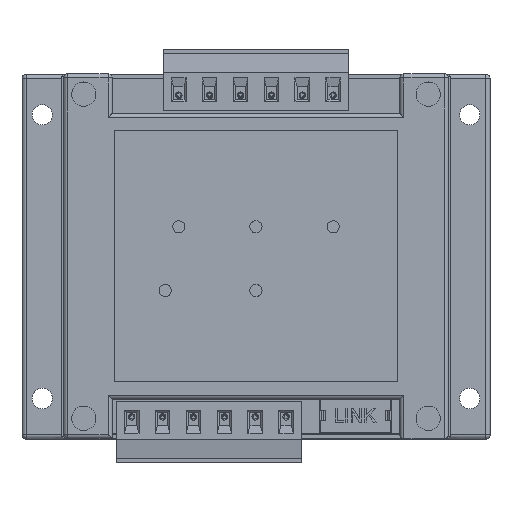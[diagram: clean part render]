
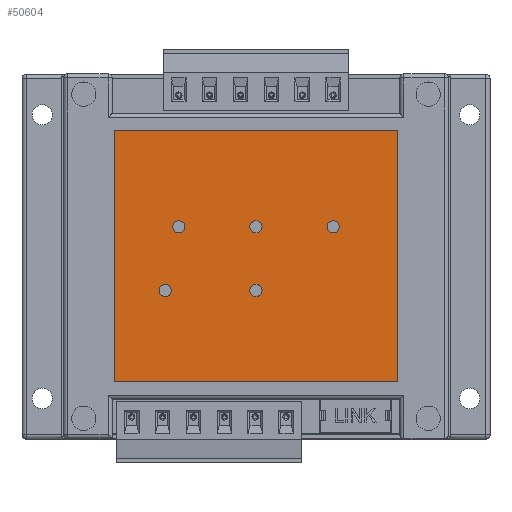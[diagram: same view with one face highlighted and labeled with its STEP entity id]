
A CAD part, top view. The second image highlights one B-rep face of the part: STEP entity #50604.
In plain terms, the highlighted planar face has unit normal (0, 0, 1).
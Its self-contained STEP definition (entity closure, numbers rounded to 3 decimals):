
#87 = DIRECTION ( 'NONE',  ( 0., -1., 0. ) ) ;
#1165 = AXIS2_PLACEMENT_3D ( 'NONE', #39318, #75757, #57805 ) ;
#2840 = CIRCLE ( 'NONE', #64678, 1.5 ) ;
#3066 = VERTEX_POINT ( 'NONE', #18585 ) ;
#3477 = DIRECTION ( 'NONE',  ( 0., -1., 0. ) ) ;
#3683 = CARTESIAN_POINT ( 'NONE',  ( -36.661, 21.539, 182.357 ) ) ;
#4295 = EDGE_LOOP ( 'NONE', ( #75303, #76708 ) ) ;
#4382 = CARTESIAN_POINT ( 'NONE',  ( -55.711, 20.039, 182.357 ) ) ;
#5021 = DIRECTION ( 'NONE',  ( 0., -1., 0. ) ) ;
#5432 = LINE ( 'NONE', #8894, #30358 ) ;
#5720 = EDGE_CURVE ( 'NONE', #12729, #52686, #51034, .T. ) ;
#5769 = CARTESIAN_POINT ( 'NONE',  ( -55.711, 21.539, 182.357 ) ) ;
#5957 = EDGE_CURVE ( 'NONE', #52686, #48660, #71146, .T. ) ;
#6585 = FACE_BOUND ( 'NONE', #51941, .T. ) ;
#7159 = EDGE_CURVE ( 'NONE', #62421, #29025, #16268, .T. ) ;
#7184 = CARTESIAN_POINT ( 'NONE',  ( -55.711, 18.539, 182.357 ) ) ;
#7583 = CARTESIAN_POINT ( 'NONE',  ( -36.661, 20.039, 182.357 ) ) ;
#7772 = AXIS2_PLACEMENT_3D ( 'NONE', #48165, #72566, #5021 ) ;
#8894 = CARTESIAN_POINT ( 'NONE',  ( -71.651, 43.779, 182.357 ) ) ;
#10203 = DIRECTION ( 'NONE',  ( 0., -1., 0. ) ) ;
#10895 = EDGE_CURVE ( 'NONE', #22291, #3066, #63070, .T. ) ;
#11475 = DIRECTION ( 'NONE',  ( 0., 1., 0. ) ) ;
#11874 = ORIENTED_EDGE ( 'NONE', *, *, #7159, .T. ) ;
#12262 = CARTESIAN_POINT ( 'NONE',  ( -36.661, 20.039, 182.357 ) ) ;
#12729 = VERTEX_POINT ( 'NONE', #79321 ) ;
#13375 = AXIS2_PLACEMENT_3D ( 'NONE', #7583, #57186, #50508 ) ;
#14812 = EDGE_CURVE ( 'NONE', #32316, #16731, #65205, .T. ) ;
#16268 = CIRCLE ( 'NONE', #1165, 1.5 ) ;
#16731 = VERTEX_POINT ( 'NONE', #79382 ) ;
#18390 = ORIENTED_EDGE ( 'NONE', *, *, #10895, .T. ) ;
#18585 = CARTESIAN_POINT ( 'NONE',  ( -36.661, 5.839, 182.357 ) ) ;
#19990 = FACE_BOUND ( 'NONE', #62386, .T. ) ;
#20495 = AXIS2_PLACEMENT_3D ( 'NONE', #22198, #47074, #59151 ) ;
#20835 = ORIENTED_EDGE ( 'NONE', *, *, #54722, .T. ) ;
#21755 = CARTESIAN_POINT ( 'NONE',  ( -17.611, 20.039, 182.357 ) ) ;
#21771 = AXIS2_PLACEMENT_3D ( 'NONE', #45535, #69654, #76373 ) ;
#22198 = CARTESIAN_POINT ( 'NONE',  ( -36.661, 4.339, 182.357 ) ) ;
#22291 = VERTEX_POINT ( 'NONE', #31941 ) ;
#24635 = DIRECTION ( 'NONE',  ( 0., 0., -1. ) ) ;
#25082 = EDGE_CURVE ( 'NONE', #28783, #50385, #78172, .T. ) ;
#26971 = ORIENTED_EDGE ( 'NONE', *, *, #41845, .T. ) ;
#27682 = FACE_BOUND ( 'NONE', #4295, .T. ) ;
#28400 = VERTEX_POINT ( 'NONE', #69328 ) ;
#28783 = VERTEX_POINT ( 'NONE', #5769 ) ;
#29025 = VERTEX_POINT ( 'NONE', #63871 ) ;
#30358 = VECTOR ( 'NONE', #76451, 1000. ) ;
#31941 = CARTESIAN_POINT ( 'NONE',  ( -36.661, 2.839, 182.357 ) ) ;
#32316 = VERTEX_POINT ( 'NONE', #45371 ) ;
#33437 = FACE_OUTER_BOUND ( 'NONE', #63318, .T. ) ;
#34768 = EDGE_CURVE ( 'NONE', #42847, #40221, #54241, .T. ) ;
#35339 = PLANE ( 'NONE',  #7772 ) ;
#35993 = DIRECTION ( 'NONE',  ( 0., -1., 0. ) ) ;
#37043 = DIRECTION ( 'NONE',  ( 0., 0., -1. ) ) ;
#37138 = EDGE_CURVE ( 'NONE', #3066, #22291, #43289, .T. ) ;
#37288 = FACE_BOUND ( 'NONE', #68088, .T. ) ;
#38261 = CARTESIAN_POINT ( 'NONE',  ( -36.661, 18.539, 182.357 ) ) ;
#38972 = ORIENTED_EDGE ( 'NONE', *, *, #5720, .T. ) ;
#39318 = CARTESIAN_POINT ( 'NONE',  ( -17.611, 20.039, 182.357 ) ) ;
#40221 = VERTEX_POINT ( 'NONE', #38261 ) ;
#41130 = FACE_BOUND ( 'NONE', #67234, .T. ) ;
#41845 = EDGE_CURVE ( 'NONE', #48660, #28400, #59159, .T. ) ;
#42370 = DIRECTION ( 'NONE',  ( 1., 0., 0. ) ) ;
#42745 = DIRECTION ( 'NONE',  ( 0., 0., -1. ) ) ;
#42847 = VERTEX_POINT ( 'NONE', #3683 ) ;
#43289 = CIRCLE ( 'NONE', #50181, 1.5 ) ;
#45371 = CARTESIAN_POINT ( 'NONE',  ( -59.061, 2.839, 182.357 ) ) ;
#45482 = CIRCLE ( 'NONE', #13375, 1.5 ) ;
#45535 = CARTESIAN_POINT ( 'NONE',  ( -59.061, 4.339, 182.357 ) ) ;
#45671 = ORIENTED_EDGE ( 'NONE', *, *, #64649, .T. ) ;
#45687 = VECTOR ( 'NONE', #11475, 1000. ) ;
#45891 = CARTESIAN_POINT ( 'NONE',  ( -71.651, -18.221, 182.357 ) ) ;
#47074 = DIRECTION ( 'NONE',  ( 0., 0., -1. ) ) ;
#48165 = CARTESIAN_POINT ( 'NONE',  ( -36.651, 12.779, 182.357 ) ) ;
#48660 = VERTEX_POINT ( 'NONE', #64522 ) ;
#50181 = AXIS2_PLACEMENT_3D ( 'NONE', #61400, #37043, #35993 ) ;
#50385 = VERTEX_POINT ( 'NONE', #7184 ) ;
#50508 = DIRECTION ( 'NONE',  ( 0., -1., 0. ) ) ;
#50604 = ADVANCED_FACE ( 'NONE', ( #33437, #6585, #41130, #37288, #27682, #19990 ), #35339, .F. ) ;
#51034 = LINE ( 'NONE', #45891, #74999 ) ;
#51503 = AXIS2_PLACEMENT_3D ( 'NONE', #71579, #71840, #10203 ) ;
#51941 = EDGE_LOOP ( 'NONE', ( #18390, #58564 ) ) ;
#52686 = VERTEX_POINT ( 'NONE', #74298 ) ;
#54241 = CIRCLE ( 'NONE', #65424, 1.5 ) ;
#54722 = EDGE_CURVE ( 'NONE', #28400, #12729, #5432, .T. ) ;
#54884 = VECTOR ( 'NONE', #42370, 1000. ) ;
#56930 = CARTESIAN_POINT ( 'NONE',  ( -17.611, 18.539, 182.357 ) ) ;
#57186 = DIRECTION ( 'NONE',  ( 0., 0., -1. ) ) ;
#57805 = DIRECTION ( 'NONE',  ( 0., -1., 0. ) ) ;
#58564 = ORIENTED_EDGE ( 'NONE', *, *, #37138, .T. ) ;
#59079 = DIRECTION ( 'NONE',  ( 0., 0., -1. ) ) ;
#59151 = DIRECTION ( 'NONE',  ( 0., -1., 0. ) ) ;
#59159 = LINE ( 'NONE', #61046, #45687 ) ;
#61046 = CARTESIAN_POINT ( 'NONE',  ( -1.651, -18.221, 182.357 ) ) ;
#61298 = DIRECTION ( 'NONE',  ( 0., -1., 0. ) ) ;
#61400 = CARTESIAN_POINT ( 'NONE',  ( -36.661, 4.339, 182.357 ) ) ;
#61965 = ORIENTED_EDGE ( 'NONE', *, *, #73824, .T. ) ;
#62386 = EDGE_LOOP ( 'NONE', ( #75962, #74095 ) ) ;
#62421 = VERTEX_POINT ( 'NONE', #56930 ) ;
#63070 = CIRCLE ( 'NONE', #20495, 1.5 ) ;
#63277 = AXIS2_PLACEMENT_3D ( 'NONE', #67633, #42745, #87 ) ;
#63318 = EDGE_LOOP ( 'NONE', ( #26971, #20835, #38972, #74788 ) ) ;
#63871 = CARTESIAN_POINT ( 'NONE',  ( -17.611, 21.539, 182.357 ) ) ;
#63903 = AXIS2_PLACEMENT_3D ( 'NONE', #4382, #59079, #71120 ) ;
#64522 = CARTESIAN_POINT ( 'NONE',  ( -1.651, -18.221, 182.357 ) ) ;
#64575 = DIRECTION ( 'NONE',  ( 0., 0., -1. ) ) ;
#64649 = EDGE_CURVE ( 'NONE', #29025, #62421, #2840, .T. ) ;
#64678 = AXIS2_PLACEMENT_3D ( 'NONE', #21755, #64575, #3477 ) ;
#65205 = CIRCLE ( 'NONE', #51503, 1.5 ) ;
#65328 = CIRCLE ( 'NONE', #63277, 1.5 ) ;
#65424 = AXIS2_PLACEMENT_3D ( 'NONE', #12262, #24635, #61298 ) ;
#66247 = CIRCLE ( 'NONE', #21771, 1.5 ) ;
#66998 = CARTESIAN_POINT ( 'NONE',  ( -71.651, -18.221, 182.357 ) ) ;
#67234 = EDGE_LOOP ( 'NONE', ( #11874, #45671 ) ) ;
#67633 = CARTESIAN_POINT ( 'NONE',  ( -55.711, 20.039, 182.357 ) ) ;
#68088 = EDGE_LOOP ( 'NONE', ( #61965, #73149 ) ) ;
#69328 = CARTESIAN_POINT ( 'NONE',  ( -1.651, 43.779, 182.357 ) ) ;
#69654 = DIRECTION ( 'NONE',  ( 0., 0., -1. ) ) ;
#71120 = DIRECTION ( 'NONE',  ( 0., -1., 0. ) ) ;
#71146 = LINE ( 'NONE', #66998, #54884 ) ;
#71579 = CARTESIAN_POINT ( 'NONE',  ( -59.061, 4.339, 182.357 ) ) ;
#71840 = DIRECTION ( 'NONE',  ( 0., 0., -1. ) ) ;
#72566 = DIRECTION ( 'NONE',  ( 0., 0., -1. ) ) ;
#73149 = ORIENTED_EDGE ( 'NONE', *, *, #34768, .T. ) ;
#73824 = EDGE_CURVE ( 'NONE', #40221, #42847, #45482, .T. ) ;
#74095 = ORIENTED_EDGE ( 'NONE', *, *, #75608, .T. ) ;
#74298 = CARTESIAN_POINT ( 'NONE',  ( -71.651, -18.221, 182.357 ) ) ;
#74788 = ORIENTED_EDGE ( 'NONE', *, *, #5957, .T. ) ;
#74999 = VECTOR ( 'NONE', #76714, 1000. ) ;
#75303 = ORIENTED_EDGE ( 'NONE', *, *, #75390, .T. ) ;
#75390 = EDGE_CURVE ( 'NONE', #50385, #28783, #65328, .T. ) ;
#75608 = EDGE_CURVE ( 'NONE', #16731, #32316, #66247, .T. ) ;
#75757 = DIRECTION ( 'NONE',  ( 0., 0., -1. ) ) ;
#75962 = ORIENTED_EDGE ( 'NONE', *, *, #14812, .T. ) ;
#76373 = DIRECTION ( 'NONE',  ( 0., -1., 0. ) ) ;
#76451 = DIRECTION ( 'NONE',  ( -1., 0., 0. ) ) ;
#76708 = ORIENTED_EDGE ( 'NONE', *, *, #25082, .T. ) ;
#76714 = DIRECTION ( 'NONE',  ( 0., -1., 0. ) ) ;
#78172 = CIRCLE ( 'NONE', #63903, 1.5 ) ;
#79321 = CARTESIAN_POINT ( 'NONE',  ( -71.651, 43.779, 182.357 ) ) ;
#79382 = CARTESIAN_POINT ( 'NONE',  ( -59.061, 5.839, 182.357 ) ) ;
